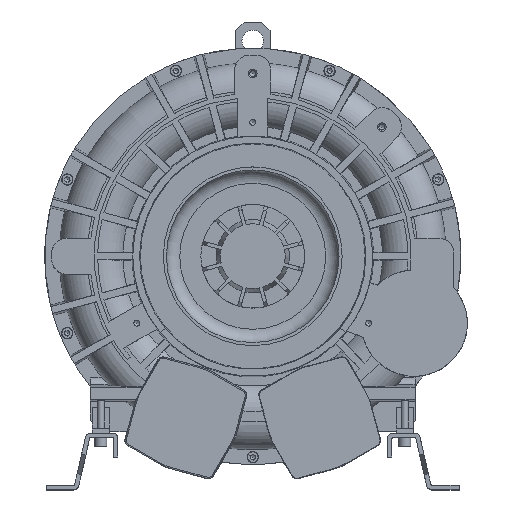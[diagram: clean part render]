
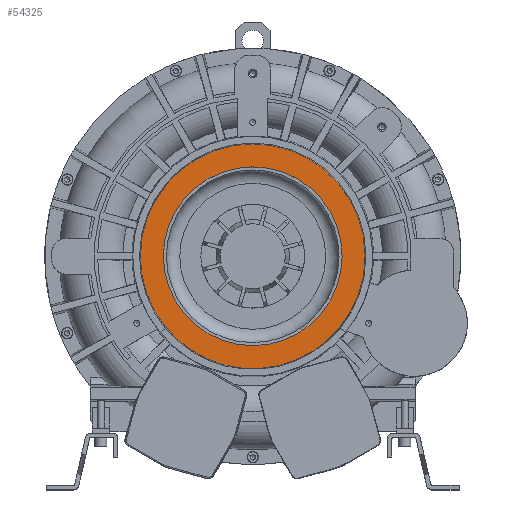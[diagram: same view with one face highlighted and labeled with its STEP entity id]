
A CAD part, top view. The second image highlights one B-rep face of the part: STEP entity #54325.
In plain terms, the highlighted planar face has unit normal (0, 0, 1).
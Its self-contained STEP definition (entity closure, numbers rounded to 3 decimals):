
#4572 = CARTESIAN_POINT ( 'NONE',  ( 0., 0., 212. ) ) ;
#5525 = AXIS2_PLACEMENT_3D ( 'NONE', #4572, #27202, #87097 ) ;
#14139 = EDGE_LOOP ( 'NONE', ( #52836 ) ) ;
#14289 = FACE_BOUND ( 'NONE', #14139, .T. ) ;
#27202 = DIRECTION ( 'NONE',  ( 0., 0., 1. ) ) ;
#37422 = PLANE ( 'NONE',  #77870 ) ;
#38422 = DIRECTION ( 'NONE',  ( 0., 0., -1. ) ) ;
#38908 = CARTESIAN_POINT ( 'NONE',  ( 0., 0., 212. ) ) ;
#45571 = EDGE_CURVE ( 'NONE', #61289, #61289, #55686, .T. ) ;
#45781 = DIRECTION ( 'NONE',  ( -1., 0., 0. ) ) ;
#45890 = ORIENTED_EDGE ( 'NONE', *, *, #45571, .T. ) ;
#51815 = CARTESIAN_POINT ( 'NONE',  ( 0., 0., 212. ) ) ;
#52836 = ORIENTED_EDGE ( 'NONE', *, *, #54091, .F. ) ;
#54091 = EDGE_CURVE ( 'NONE', #66699, #66699, #76274, .T. ) ;
#54325 = ADVANCED_FACE ( 'NONE', ( #14289, #99291 ), #37422, .F. ) ;
#55686 = CIRCLE ( 'NONE', #70144, 130.194 ) ;
#61289 = VERTEX_POINT ( 'NONE', #98020 ) ;
#66699 = VERTEX_POINT ( 'NONE', #95423 ) ;
#69093 = DIRECTION ( 'NONE',  ( -1., 0., 0. ) ) ;
#70144 = AXIS2_PLACEMENT_3D ( 'NONE', #51815, #82514, #45781 ) ;
#76274 = CIRCLE ( 'NONE', #5525, 103.5 ) ;
#77870 = AXIS2_PLACEMENT_3D ( 'NONE', #38908, #38422, #69093 ) ;
#77887 = EDGE_LOOP ( 'NONE', ( #45890 ) ) ;
#82514 = DIRECTION ( 'NONE',  ( 0., 0., 1. ) ) ;
#87097 = DIRECTION ( 'NONE',  ( 1., 0., 0. ) ) ;
#95423 = CARTESIAN_POINT ( 'NONE',  ( 103.5, 0., 212. ) ) ;
#98020 = CARTESIAN_POINT ( 'NONE',  ( -130.194, 0., 212. ) ) ;
#99291 = FACE_OUTER_BOUND ( 'NONE', #77887, .T. ) ;
